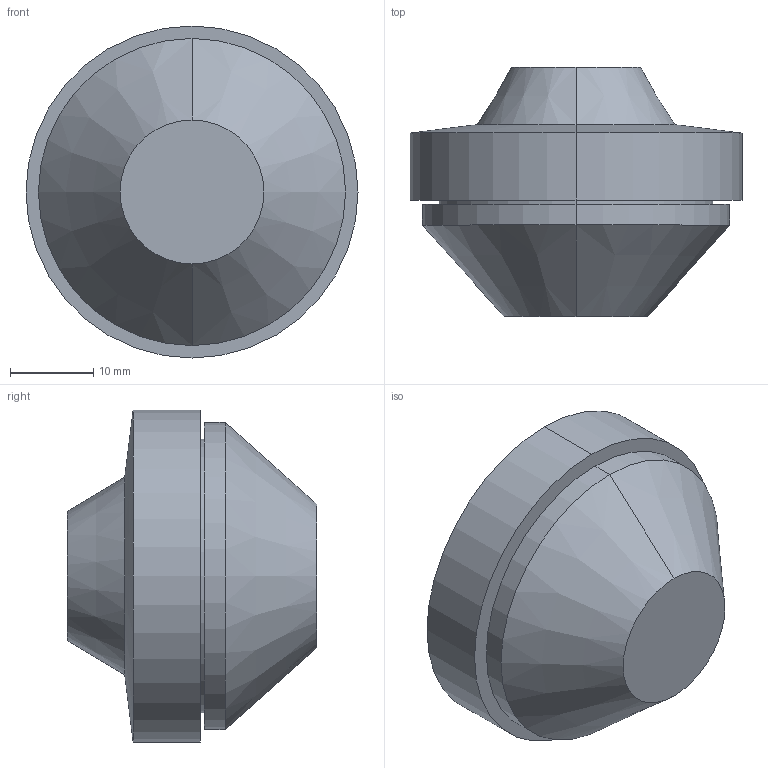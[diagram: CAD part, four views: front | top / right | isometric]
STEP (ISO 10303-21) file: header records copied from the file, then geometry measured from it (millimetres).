
FILE_DESCRIPTION (( 'STEP AP203' ), '1' );
FILE_NAME ('100735.STEP', '2012-10-29T10:26:06', ( 'Joni' ), ( 'Hewlett-Packard Company' ), 'SwSTEP 2.0', 'SolidWorks 2012', '' );
FILE_SCHEMA (( 'CONFIG_CONTROL_DESIGN' ));
Length unit declared in the file: millimetre
Products named in the file (1): 100735
Bounding box: 40 x 30 x 40 mm (x, y, z)
Volume: 22908.6 mm3; surface area: 4981.4 mm2
Topology: 1 solids, 1 shells, 16 faces, 30 edges, 18 vertices
Faces by surface type: cone 6, cylinder 6, plane 4
Entity records: 481 total; most frequent: DIRECTION 82, CARTESIAN_POINT 65, ORIENTED_EDGE 60, AXIS2_PLACEMENT_3D 35, EDGE_CURVE 30, VERTEX_POINT 18, EDGE_LOOP 18, CIRCLE 18
